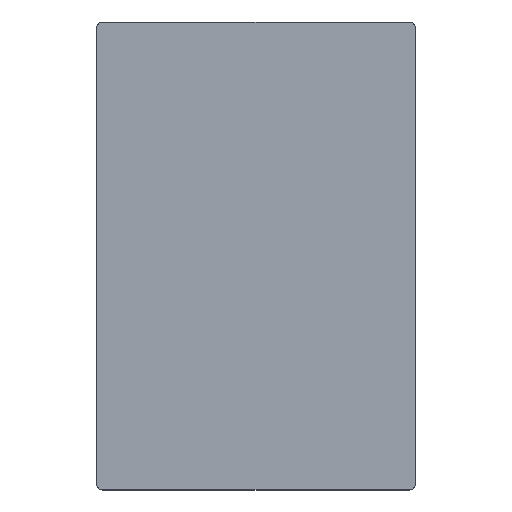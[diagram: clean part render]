
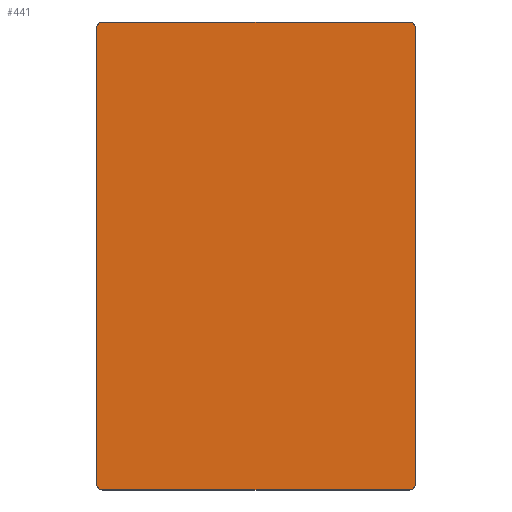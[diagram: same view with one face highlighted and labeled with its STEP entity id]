
A CAD part, top view. The second image highlights one B-rep face of the part: STEP entity #441.
In plain terms, the highlighted planar face has unit normal (0, 0, 1).
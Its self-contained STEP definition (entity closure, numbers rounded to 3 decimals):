
#32 = PLANE('',#33);
#33 = AXIS2_PLACEMENT_3D('',#34,#35,#36);
#34 = CARTESIAN_POINT('',(2.5,-25.,7.5));
#35 = DIRECTION('',(1.,0.,-0.));
#36 = DIRECTION('',(0.,0.,1.));
#57 = VERTEX_POINT('',#58);
#58 = CARTESIAN_POINT('',(2.5,-24.4,7.5));
#72 = CYLINDRICAL_SURFACE('',#73,0.6);
#73 = AXIS2_PLACEMENT_3D('',#74,#75,#76);
#74 = CARTESIAN_POINT('',(3.1,-24.4,7.5));
#75 = DIRECTION('',(-0.,-0.,-1.));
#76 = DIRECTION('',(-1.,-0.,-0.));
#84 = EDGE_CURVE('',#57,#85,#87,.T.);
#85 = VERTEX_POINT('',#86);
#86 = CARTESIAN_POINT('',(2.5,24.4,7.5));
#87 = SURFACE_CURVE('',#88,(#92,#99),.PCURVE_S1.);
#88 = LINE('',#89,#90);
#89 = CARTESIAN_POINT('',(2.5,-25.,7.5));
#90 = VECTOR('',#91,1.);
#91 = DIRECTION('',(-0.,1.,0.));
#92 = PCURVE('',#32,#93);
#93 = DEFINITIONAL_REPRESENTATION('',(#94),#98);
#94 = LINE('',#95,#96);
#95 = CARTESIAN_POINT('',(-0.,-0.));
#96 = VECTOR('',#97,1.);
#97 = DIRECTION('',(-0.,-1.));
#98 = ( GEOMETRIC_REPRESENTATION_CONTEXT(2) 
PARAMETRIC_REPRESENTATION_CONTEXT() REPRESENTATION_CONTEXT('2D SPACE',''
  ) );
#99 = PCURVE('',#100,#105);
#100 = PLANE('',#101);
#101 = AXIS2_PLACEMENT_3D('',#102,#103,#104);
#102 = CARTESIAN_POINT('',(2.5,-25.,7.5));
#103 = DIRECTION('',(0.,-0.,-1.));
#104 = DIRECTION('',(-1.,0.,0.));
#105 = DEFINITIONAL_REPRESENTATION('',(#106),#110);
#106 = LINE('',#107,#108);
#107 = CARTESIAN_POINT('',(-0.,0.));
#108 = VECTOR('',#109,1.);
#109 = DIRECTION('',(-0.,1.));
#110 = ( GEOMETRIC_REPRESENTATION_CONTEXT(2) 
PARAMETRIC_REPRESENTATION_CONTEXT() REPRESENTATION_CONTEXT('2D SPACE',''
  ) );
#126 = CYLINDRICAL_SURFACE('',#127,0.6);
#127 = AXIS2_PLACEMENT_3D('',#128,#129,#130);
#128 = CARTESIAN_POINT('',(3.1,24.4,7.5));
#129 = DIRECTION('',(-0.,-0.,-1.));
#130 = DIRECTION('',(-1.,-0.,-0.));
#186 = PLANE('',#187);
#187 = AXIS2_PLACEMENT_3D('',#188,#189,#190);
#188 = CARTESIAN_POINT('',(2.5,-25.,7.5));
#189 = DIRECTION('',(-0.,1.,0.));
#190 = DIRECTION('',(0.,0.,1.));
#215 = CYLINDRICAL_SURFACE('',#216,0.6);
#216 = AXIS2_PLACEMENT_3D('',#217,#218,#219);
#217 = CARTESIAN_POINT('',(35.9,-24.4,7.5));
#218 = DIRECTION('',(-0.,-0.,-1.));
#219 = DIRECTION('',(1.,-0.,-0.));
#243 = PLANE('',#244);
#244 = AXIS2_PLACEMENT_3D('',#245,#246,#247);
#245 = CARTESIAN_POINT('',(36.5,-25.,7.5));
#246 = DIRECTION('',(1.,0.,-0.));
#247 = DIRECTION('',(0.,0.,1.));
#276 = CYLINDRICAL_SURFACE('',#277,0.6);
#277 = AXIS2_PLACEMENT_3D('',#278,#279,#280);
#278 = CARTESIAN_POINT('',(35.9,24.4,7.5));
#279 = DIRECTION('',(-0.,-0.,-1.));
#280 = DIRECTION('',(1.,-0.,-0.));
#304 = PLANE('',#305);
#305 = AXIS2_PLACEMENT_3D('',#306,#307,#308);
#306 = CARTESIAN_POINT('',(2.5,25.,7.5));
#307 = DIRECTION('',(-0.,1.,0.));
#308 = DIRECTION('',(0.,0.,1.));
#341 = EDGE_CURVE('',#57,#342,#344,.T.);
#342 = VERTEX_POINT('',#343);
#343 = CARTESIAN_POINT('',(3.1,-25.,7.5));
#344 = SURFACE_CURVE('',#345,(#350,#357),.PCURVE_S1.);
#345 = CIRCLE('',#346,0.6);
#346 = AXIS2_PLACEMENT_3D('',#347,#348,#349);
#347 = CARTESIAN_POINT('',(3.1,-24.4,7.5));
#348 = DIRECTION('',(0.,-0.,1.));
#349 = DIRECTION('',(-0.,-1.,-0.));
#350 = PCURVE('',#72,#351);
#351 = DEFINITIONAL_REPRESENTATION('',(#352),#356);
#352 = LINE('',#353,#354);
#353 = CARTESIAN_POINT('',(4.712,-0.));
#354 = VECTOR('',#355,1.);
#355 = DIRECTION('',(-1.,0.));
#356 = ( GEOMETRIC_REPRESENTATION_CONTEXT(2) 
PARAMETRIC_REPRESENTATION_CONTEXT() REPRESENTATION_CONTEXT('2D SPACE',''
  ) );
#357 = PCURVE('',#100,#358);
#358 = DEFINITIONAL_REPRESENTATION('',(#359),#367);
#359 = ( BOUNDED_CURVE() B_SPLINE_CURVE(2,(#360,#361,#362,#363,#364,#365
,#366),.UNSPECIFIED.,.T.,.F.) B_SPLINE_CURVE_WITH_KNOTS((1,2,2,2,2,1),(
    -2.094,0.,2.094,4.189,6.283,
8.378),.UNSPECIFIED.) CURVE() GEOMETRIC_REPRESENTATION_ITEM() 
RATIONAL_B_SPLINE_CURVE((1.,0.5,1.,0.5,1.,0.5,1.)) REPRESENTATION_ITEM(
  '') );
#360 = CARTESIAN_POINT('',(-0.6,0.));
#361 = CARTESIAN_POINT('',(-1.639,0.));
#362 = CARTESIAN_POINT('',(-1.12,0.9));
#363 = CARTESIAN_POINT('',(-0.6,1.8));
#364 = CARTESIAN_POINT('',(-0.08,0.9));
#365 = CARTESIAN_POINT('',(0.439,0.));
#366 = CARTESIAN_POINT('',(-0.6,0.));
#367 = ( GEOMETRIC_REPRESENTATION_CONTEXT(2) 
PARAMETRIC_REPRESENTATION_CONTEXT() REPRESENTATION_CONTEXT('2D SPACE',''
  ) );
#395 = EDGE_CURVE('',#85,#396,#398,.T.);
#396 = VERTEX_POINT('',#397);
#397 = CARTESIAN_POINT('',(3.1,25.,7.5));
#398 = SURFACE_CURVE('',#399,(#404,#411),.PCURVE_S1.);
#399 = CIRCLE('',#400,0.6);
#400 = AXIS2_PLACEMENT_3D('',#401,#402,#403);
#401 = CARTESIAN_POINT('',(3.1,24.4,7.5));
#402 = DIRECTION('',(0.,0.,-1.));
#403 = DIRECTION('',(-0.,-1.,-0.));
#404 = PCURVE('',#126,#405);
#405 = DEFINITIONAL_REPRESENTATION('',(#406),#410);
#406 = LINE('',#407,#408);
#407 = CARTESIAN_POINT('',(-1.571,0.));
#408 = VECTOR('',#409,1.);
#409 = DIRECTION('',(1.,0.));
#410 = ( GEOMETRIC_REPRESENTATION_CONTEXT(2) 
PARAMETRIC_REPRESENTATION_CONTEXT() REPRESENTATION_CONTEXT('2D SPACE',''
  ) );
#411 = PCURVE('',#100,#412);
#412 = DEFINITIONAL_REPRESENTATION('',(#413),#417);
#413 = CIRCLE('',#414,0.6);
#414 = AXIS2_PLACEMENT_2D('',#415,#416);
#415 = CARTESIAN_POINT('',(-0.6,49.4));
#416 = DIRECTION('',(-0.,-1.));
#417 = ( GEOMETRIC_REPRESENTATION_CONTEXT(2) 
PARAMETRIC_REPRESENTATION_CONTEXT() REPRESENTATION_CONTEXT('2D SPACE',''
  ) );
#441 = ADVANCED_FACE('',(#442),#100,.F.);
#442 = FACE_BOUND('',#443,.T.);
#443 = EDGE_LOOP('',(#444,#445,#446,#469,#493,#516,#544,#565));
#444 = ORIENTED_EDGE('',*,*,#84,.F.);
#445 = ORIENTED_EDGE('',*,*,#341,.T.);
#446 = ORIENTED_EDGE('',*,*,#447,.T.);
#447 = EDGE_CURVE('',#342,#448,#450,.T.);
#448 = VERTEX_POINT('',#449);
#449 = CARTESIAN_POINT('',(35.9,-25.,7.5));
#450 = SURFACE_CURVE('',#451,(#455,#462),.PCURVE_S1.);
#451 = LINE('',#452,#453);
#452 = CARTESIAN_POINT('',(2.5,-25.,7.5));
#453 = VECTOR('',#454,1.);
#454 = DIRECTION('',(1.,0.,-0.));
#455 = PCURVE('',#100,#456);
#456 = DEFINITIONAL_REPRESENTATION('',(#457),#461);
#457 = LINE('',#458,#459);
#458 = CARTESIAN_POINT('',(-0.,0.));
#459 = VECTOR('',#460,1.);
#460 = DIRECTION('',(-1.,0.));
#461 = ( GEOMETRIC_REPRESENTATION_CONTEXT(2) 
PARAMETRIC_REPRESENTATION_CONTEXT() REPRESENTATION_CONTEXT('2D SPACE',''
  ) );
#462 = PCURVE('',#186,#463);
#463 = DEFINITIONAL_REPRESENTATION('',(#464),#468);
#464 = LINE('',#465,#466);
#465 = CARTESIAN_POINT('',(0.,-0.));
#466 = VECTOR('',#467,1.);
#467 = DIRECTION('',(-0.,1.));
#468 = ( GEOMETRIC_REPRESENTATION_CONTEXT(2) 
PARAMETRIC_REPRESENTATION_CONTEXT() REPRESENTATION_CONTEXT('2D SPACE',''
  ) );
#469 = ORIENTED_EDGE('',*,*,#470,.F.);
#470 = EDGE_CURVE('',#471,#448,#473,.T.);
#471 = VERTEX_POINT('',#472);
#472 = CARTESIAN_POINT('',(36.5,-24.4,7.5));
#473 = SURFACE_CURVE('',#474,(#479,#486),.PCURVE_S1.);
#474 = CIRCLE('',#475,0.6);
#475 = AXIS2_PLACEMENT_3D('',#476,#477,#478);
#476 = CARTESIAN_POINT('',(35.9,-24.4,7.5));
#477 = DIRECTION('',(0.,0.,-1.));
#478 = DIRECTION('',(-0.,-1.,-0.));
#479 = PCURVE('',#100,#480);
#480 = DEFINITIONAL_REPRESENTATION('',(#481),#485);
#481 = CIRCLE('',#482,0.6);
#482 = AXIS2_PLACEMENT_2D('',#483,#484);
#483 = CARTESIAN_POINT('',(-33.4,0.6));
#484 = DIRECTION('',(-0.,-1.));
#485 = ( GEOMETRIC_REPRESENTATION_CONTEXT(2) 
PARAMETRIC_REPRESENTATION_CONTEXT() REPRESENTATION_CONTEXT('2D SPACE',''
  ) );
#486 = PCURVE('',#215,#487);
#487 = DEFINITIONAL_REPRESENTATION('',(#488),#492);
#488 = LINE('',#489,#490);
#489 = CARTESIAN_POINT('',(-4.712,0.));
#490 = VECTOR('',#491,1.);
#491 = DIRECTION('',(1.,0.));
#492 = ( GEOMETRIC_REPRESENTATION_CONTEXT(2) 
PARAMETRIC_REPRESENTATION_CONTEXT() REPRESENTATION_CONTEXT('2D SPACE',''
  ) );
#493 = ORIENTED_EDGE('',*,*,#494,.T.);
#494 = EDGE_CURVE('',#471,#495,#497,.T.);
#495 = VERTEX_POINT('',#496);
#496 = CARTESIAN_POINT('',(36.5,24.4,7.5));
#497 = SURFACE_CURVE('',#498,(#502,#509),.PCURVE_S1.);
#498 = LINE('',#499,#500);
#499 = CARTESIAN_POINT('',(36.5,-25.,7.5));
#500 = VECTOR('',#501,1.);
#501 = DIRECTION('',(-0.,1.,0.));
#502 = PCURVE('',#100,#503);
#503 = DEFINITIONAL_REPRESENTATION('',(#504),#508);
#504 = LINE('',#505,#506);
#505 = CARTESIAN_POINT('',(-34.,0.));
#506 = VECTOR('',#507,1.);
#507 = DIRECTION('',(-0.,1.));
#508 = ( GEOMETRIC_REPRESENTATION_CONTEXT(2) 
PARAMETRIC_REPRESENTATION_CONTEXT() REPRESENTATION_CONTEXT('2D SPACE',''
  ) );
#509 = PCURVE('',#243,#510);
#510 = DEFINITIONAL_REPRESENTATION('',(#511),#515);
#511 = LINE('',#512,#513);
#512 = CARTESIAN_POINT('',(-0.,-0.));
#513 = VECTOR('',#514,1.);
#514 = DIRECTION('',(-0.,-1.));
#515 = ( GEOMETRIC_REPRESENTATION_CONTEXT(2) 
PARAMETRIC_REPRESENTATION_CONTEXT() REPRESENTATION_CONTEXT('2D SPACE',''
  ) );
#516 = ORIENTED_EDGE('',*,*,#517,.T.);
#517 = EDGE_CURVE('',#495,#518,#520,.T.);
#518 = VERTEX_POINT('',#519);
#519 = CARTESIAN_POINT('',(35.9,25.,7.5));
#520 = SURFACE_CURVE('',#521,(#526,#537),.PCURVE_S1.);
#521 = CIRCLE('',#522,0.6);
#522 = AXIS2_PLACEMENT_3D('',#523,#524,#525);
#523 = CARTESIAN_POINT('',(35.9,24.4,7.5));
#524 = DIRECTION('',(0.,-0.,1.));
#525 = DIRECTION('',(-0.,-1.,-0.));
#526 = PCURVE('',#100,#527);
#527 = DEFINITIONAL_REPRESENTATION('',(#528),#536);
#528 = ( BOUNDED_CURVE() B_SPLINE_CURVE(2,(#529,#530,#531,#532,#533,#534
,#535),.UNSPECIFIED.,.T.,.F.) B_SPLINE_CURVE_WITH_KNOTS((1,2,2,2,2,1),(
    -2.094,0.,2.094,4.189,6.283,
8.378),.UNSPECIFIED.) CURVE() GEOMETRIC_REPRESENTATION_ITEM() 
RATIONAL_B_SPLINE_CURVE((1.,0.5,1.,0.5,1.,0.5,1.)) REPRESENTATION_ITEM(
  '') );
#529 = CARTESIAN_POINT('',(-33.4,48.8));
#530 = CARTESIAN_POINT('',(-34.439,48.8));
#531 = CARTESIAN_POINT('',(-33.92,49.7));
#532 = CARTESIAN_POINT('',(-33.4,50.6));
#533 = CARTESIAN_POINT('',(-32.88,49.7));
#534 = CARTESIAN_POINT('',(-32.361,48.8));
#535 = CARTESIAN_POINT('',(-33.4,48.8));
#536 = ( GEOMETRIC_REPRESENTATION_CONTEXT(2) 
PARAMETRIC_REPRESENTATION_CONTEXT() REPRESENTATION_CONTEXT('2D SPACE',''
  ) );
#537 = PCURVE('',#276,#538);
#538 = DEFINITIONAL_REPRESENTATION('',(#539),#543);
#539 = LINE('',#540,#541);
#540 = CARTESIAN_POINT('',(1.571,-0.));
#541 = VECTOR('',#542,1.);
#542 = DIRECTION('',(-1.,0.));
#543 = ( GEOMETRIC_REPRESENTATION_CONTEXT(2) 
PARAMETRIC_REPRESENTATION_CONTEXT() REPRESENTATION_CONTEXT('2D SPACE',''
  ) );
#544 = ORIENTED_EDGE('',*,*,#545,.F.);
#545 = EDGE_CURVE('',#396,#518,#546,.T.);
#546 = SURFACE_CURVE('',#547,(#551,#558),.PCURVE_S1.);
#547 = LINE('',#548,#549);
#548 = CARTESIAN_POINT('',(2.5,25.,7.5));
#549 = VECTOR('',#550,1.);
#550 = DIRECTION('',(1.,0.,-0.));
#551 = PCURVE('',#100,#552);
#552 = DEFINITIONAL_REPRESENTATION('',(#553),#557);
#553 = LINE('',#554,#555);
#554 = CARTESIAN_POINT('',(-0.,50.));
#555 = VECTOR('',#556,1.);
#556 = DIRECTION('',(-1.,0.));
#557 = ( GEOMETRIC_REPRESENTATION_CONTEXT(2) 
PARAMETRIC_REPRESENTATION_CONTEXT() REPRESENTATION_CONTEXT('2D SPACE',''
  ) );
#558 = PCURVE('',#304,#559);
#559 = DEFINITIONAL_REPRESENTATION('',(#560),#564);
#560 = LINE('',#561,#562);
#561 = CARTESIAN_POINT('',(0.,-0.));
#562 = VECTOR('',#563,1.);
#563 = DIRECTION('',(-0.,1.));
#564 = ( GEOMETRIC_REPRESENTATION_CONTEXT(2) 
PARAMETRIC_REPRESENTATION_CONTEXT() REPRESENTATION_CONTEXT('2D SPACE',''
  ) );
#565 = ORIENTED_EDGE('',*,*,#395,.F.);
